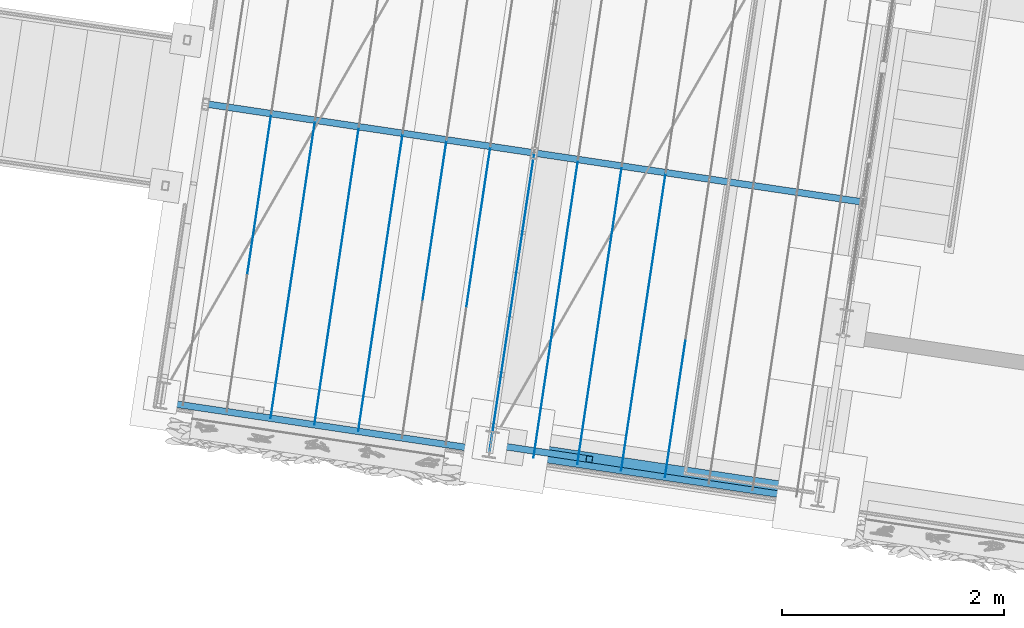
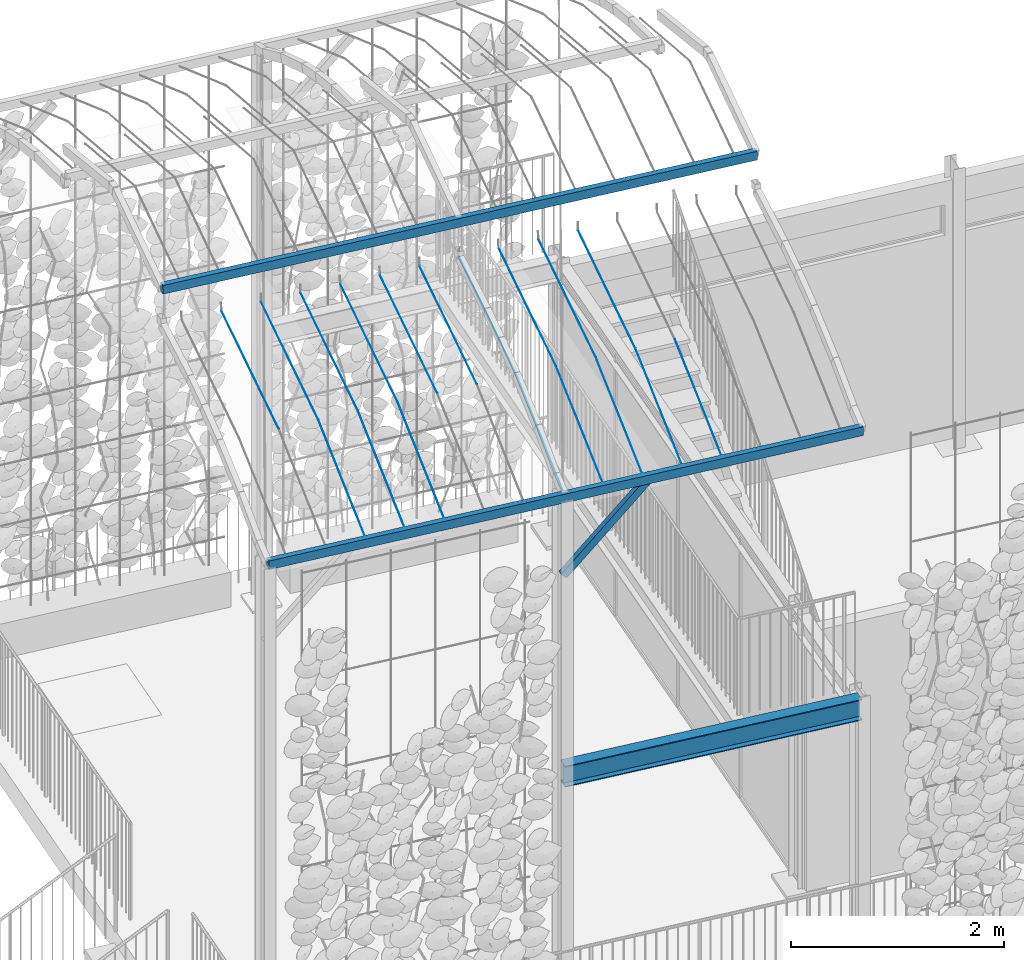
# One storey, part 16 of 142: 19 members, 3 beams, 1 element without a shape of its own.
"""IFC4 building model written with IfcOpenShell, lengths in metres."""

from ifc_helpers import new_model, si_unit, direction, frame, origin_with_axes, place, context, subcontext, project, spatial, hollow_rectangle, circle, i_section, extrude, material, material_profile, profile_set, profile_usage, type_object, element, aggregate, save


model = new_model("IFC4")

# Units and contexts
model_context = context("Model", 3, precision=1e-05, world=origin_with_axes(), true_north=direction((0.0, 1.0)))
body_context = subcontext(model_context, "Body", "Model", "MODEL_VIEW")
ifc_project = project(units=[si_unit("AREAUNIT", "SQUARE_METRE"), si_unit("VOLUMEUNIT", "CUBIC_METRE"), si_unit("LENGTHUNIT", "METRE")], contexts=[model_context])

# Site, building, storey
site_placement = place(None, origin_with_axes())
site = spatial("IfcSite", under=ifc_project, at=site_placement, Name="Lares · Rua das Mercês · artigo 4771")
building_placement = place(site_placement, frame((15.0, 9.7, 14.65), z_axis=(0.0, 0.0, 1.0), x_axis=(0.989015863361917, -0.147809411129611, 0.0)))
building = spatial("IfcBuilding", under=site, at=building_placement, Name="Casa Sobreposta")
storey_placement = place(building_placement, origin_with_axes())
storey = spatial("IfcBuildingStorey", under=building, at=storey_placement, Name="00 · Habitação e estacionamento", Elevation=14.65)

# Assembly, beams, members
assembly_placement = place(storey_placement, origin_with_axes())
assembly = element("IfcElementAssembly", 1, at=assembly_placement, inside=storey, Name="Pérgola · prolongamento da estufa 6 m", ObjectType="PERGOLA_GREENHOUSE_EXTENSION", PredefinedType="USERDEFINED")
ifc_material_1 = material(Name="Aço pintado / Stahl lackiert", Category="steel")
ifc_material_profile_1 = material_profile(ifc_material_1, i_section(OverallWidth=0.12, OverallDepth=0.24, WebThickness=0.0062, FlangeThickness=0.0098))
ifc_profile_set_1 = profile_set([ifc_material_profile_1], Name="IPE240")
ifc_profile_usage_1 = profile_usage(ifc_profile_set_1)
beam_type_1 = type_object("IfcBeamType", Name="IPE240 / steel", PredefinedType="NOTDEFINED", material=ifc_profile_set_1)
beam_1_placement = place(assembly_placement, frame((-3.0, -1.44, 3.02), z_axis=(1.0, 0.0, 0.0), x_axis=(0.0, -1.0, 0.0)))
beam_1 = element("IfcBeam", 2, at=beam_1_placement, type_object=beam_type_1, material=ifc_profile_usage_1, Name="Varanda · viga de bordo", context=body_context, shape_type="SweptSolid", body=[
    extrude(i_section(OverallWidth=0.12, OverallDepth=0.24, WebThickness=0.0062, FlangeThickness=0.0098), origin_with_axes(), (0.0, 0.0, 1.0), 3.0),
])
ifc_material_profile_2 = material_profile(ifc_material_1, hollow_rectangle(XDim=0.06, YDim=0.1, WallThickness=0.004))
ifc_profile_set_2 = profile_set([ifc_material_profile_2], Name="RHS100x60x4")
ifc_profile_usage_2 = profile_usage(ifc_profile_set_2)
beam_type_2 = type_object("IfcBeamType", Name="RHS100x60x4 / steel", PredefinedType="NOTDEFINED", material=ifc_profile_set_2)
beam_2_placement = place(assembly_placement, frame((-6.0, -1.5, 6.23430000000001), z_axis=(1.0, 0.0, 0.0), x_axis=(0.0, -1.0, 0.0)))
beam_2 = element("IfcBeam", 3, at=beam_2_placement, type_object=beam_type_2, material=ifc_profile_usage_2, Name="Pérgola · terça", context=body_context, shape_type="SweptSolid", body=[
    extrude(hollow_rectangle(XDim=0.06, YDim=0.1, WallThickness=0.004), origin_with_axes(), (0.0, 0.0, 1.0), 6.0),
])
ifc_profile_usage_3 = profile_usage(ifc_profile_set_2)
beam_3_placement = place(assembly_placement, frame((-6.0, 1.22042020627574, 7.62067689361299), z_axis=(1.0, 0.0, 0.0), x_axis=(0.0, -1.0, 0.0)))
beam_3 = element("IfcBeam", 4, at=beam_3_placement, type_object=beam_type_2, material=ifc_profile_usage_3, Name="Pérgola · terça", context=body_context, shape_type="SweptSolid", body=[
    extrude(hollow_rectangle(XDim=0.06, YDim=0.1, WallThickness=0.004), origin_with_axes(), (0.0, 0.0, 1.0), 6.0),
])
ifc_material_profile_3 = material_profile(ifc_material_1, hollow_rectangle(XDim=0.06, YDim=0.08, WallThickness=0.004))
ifc_profile_set_3 = profile_set([ifc_material_profile_3], Name="RHS80x60x4")
ifc_profile_usage_4 = profile_usage(ifc_profile_set_3)
member_type_1 = type_object("IfcMemberType", Name="RHS80x60x4 / steel", PredefinedType="NOTDEFINED", material=ifc_profile_set_3)
member_1_placement = place(assembly_placement, frame((-3.0, -1.44, 5.3), z_axis=(0.699294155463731, 0.0, 0.714834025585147), x_axis=(0.0, -1.0, 0.0)))
member_1 = element("IfcMember", 5, at=member_1_placement, type_object=member_type_1, material=ifc_profile_usage_4, Name="Pérgola · escora alta", context=body_context, shape_type="SweptSolid", body=[
    extrude(hollow_rectangle(XDim=0.06, YDim=0.08, WallThickness=0.004), origin_with_axes(), (0.0, 0.0, 1.0), 1.28701204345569),
])
ifc_material_2 = material(Name="Aço galvanizado / Stahl verzinkt", Category="steel")
ifc_material_profile_4 = material_profile(ifc_material_2, circle(Radius=0.002))
ifc_profile_set_4 = profile_set([ifc_material_profile_4], Name="D0.004")
ifc_profile_usage_5 = profile_usage(ifc_profile_set_4)
member_type_2 = type_object("IfcMemberType", Name="D0.004 / galvanized", PredefinedType="NOTDEFINED", material=ifc_profile_set_4)
member_2_placement = place(assembly_placement, frame((-5.4, -0.256488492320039, 6.81570306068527), z_axis=(0.0, 0.96535496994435, 0.260940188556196), x_axis=(1.0, 0.0, 0.0)))
member_2 = element("IfcMember", 6, at=member_2_placement, type_object=member_type_2, material=ifc_profile_usage_5, Name="Pérgola · fio para trepadeiras", context=body_context, shape_type="SweptSolid", body=[
    extrude(circle(Radius=0.002), origin_with_axes(), (0.0, 0.0, 1.0), 1.52368621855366),
])
ifc_profile_usage_6 = profile_usage(ifc_profile_set_4)
member_3_placement = place(assembly_placement, frame((-5.0, -1.5, 6.23430000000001), z_axis=(0.0, 0.905876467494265, 0.423541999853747), x_axis=(1.0, 0.0, 0.0)))
member_3 = element("IfcMember", 7, at=member_3_placement, type_object=member_type_2, material=ifc_profile_usage_6, Name="Pérgola · fio para trepadeiras", context=body_context, shape_type="SweptSolid", body=[
    extrude(circle(Radius=0.002), origin_with_axes(), (0.0, 0.0, 1.0), 1.37271642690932),
])
ifc_profile_usage_7 = profile_usage(ifc_profile_set_4)
member_4_placement = place(assembly_placement, frame((-5.0, -0.256488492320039, 6.81570306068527), z_axis=(0.0, 0.96535496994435, 0.260940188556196), x_axis=(1.0, 0.0, 0.0)))
member_4 = element("IfcMember", 8, at=member_4_placement, type_object=member_type_2, material=ifc_profile_usage_7, Name="Pérgola · fio para trepadeiras", context=body_context, shape_type="SweptSolid", body=[
    extrude(circle(Radius=0.002), origin_with_axes(), (0.0, 0.0, 1.0), 1.52368621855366),
])
ifc_profile_usage_8 = profile_usage(ifc_profile_set_4)
member_5_placement = place(assembly_placement, frame((-4.6, -1.5, 6.23430000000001), z_axis=(0.0, 0.905876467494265, 0.423541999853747), x_axis=(1.0, 0.0, 0.0)))
member_5 = element("IfcMember", 9, at=member_5_placement, type_object=member_type_2, material=ifc_profile_usage_8, Name="Pérgola · fio para trepadeiras", context=body_context, shape_type="SweptSolid", body=[
    extrude(circle(Radius=0.002), origin_with_axes(), (0.0, 0.0, 1.0), 1.37271642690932),
])
ifc_profile_usage_9 = profile_usage(ifc_profile_set_4)
member_6_placement = place(assembly_placement, frame((-4.6, -0.256488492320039, 6.81570306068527), z_axis=(0.0, 0.96535496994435, 0.260940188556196), x_axis=(1.0, 0.0, 0.0)))
member_6 = element("IfcMember", 10, at=member_6_placement, type_object=member_type_2, material=ifc_profile_usage_9, Name="Pérgola · fio para trepadeiras", context=body_context, shape_type="SweptSolid", body=[
    extrude(circle(Radius=0.002), origin_with_axes(), (0.0, 0.0, 1.0), 1.52368621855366),
])
ifc_profile_usage_10 = profile_usage(ifc_profile_set_4)
member_7_placement = place(assembly_placement, frame((-4.2, -1.5, 6.23430000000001), z_axis=(0.0, 0.905876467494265, 0.423541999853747), x_axis=(1.0, 0.0, 0.0)))
member_7 = element("IfcMember", 11, at=member_7_placement, type_object=member_type_2, material=ifc_profile_usage_10, Name="Pérgola · fio para trepadeiras", context=body_context, shape_type="SweptSolid", body=[
    extrude(circle(Radius=0.002), origin_with_axes(), (0.0, 0.0, 1.0), 1.37271642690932),
])
ifc_profile_usage_11 = profile_usage(ifc_profile_set_4)
member_8_placement = place(assembly_placement, frame((-4.2, -0.256488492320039, 6.81570306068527), z_axis=(0.0, 0.96535496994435, 0.260940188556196), x_axis=(1.0, 0.0, 0.0)))
member_8 = element("IfcMember", 12, at=member_8_placement, type_object=member_type_2, material=ifc_profile_usage_11, Name="Pérgola · fio para trepadeiras", context=body_context, shape_type="SweptSolid", body=[
    extrude(circle(Radius=0.002), origin_with_axes(), (0.0, 0.0, 1.0), 1.52368621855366),
])
ifc_profile_usage_12 = profile_usage(ifc_profile_set_4)
member_9_placement = place(assembly_placement, frame((-3.8, -0.256488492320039, 6.81570306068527), z_axis=(0.0, 0.96535496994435, 0.260940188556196), x_axis=(1.0, 0.0, 0.0)))
member_9 = element("IfcMember", 13, at=member_9_placement, type_object=member_type_2, material=ifc_profile_usage_12, Name="Pérgola · fio para trepadeiras", context=body_context, shape_type="SweptSolid", body=[
    extrude(circle(Radius=0.002), origin_with_axes(), (0.0, 0.0, 1.0), 1.52368621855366),
])
ifc_profile_usage_13 = profile_usage(ifc_profile_set_4)
member_10_placement = place(assembly_placement, frame((-3.4, -0.256488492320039, 6.81570306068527), z_axis=(0.0, 0.96535496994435, 0.260940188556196), x_axis=(1.0, 0.0, 0.0)))
member_10 = element("IfcMember", 14, at=member_10_placement, type_object=member_type_2, material=ifc_profile_usage_13, Name="Pérgola · fio para trepadeiras", context=body_context, shape_type="SweptSolid", body=[
    extrude(circle(Radius=0.002), origin_with_axes(), (0.0, 0.0, 1.0), 1.52368621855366),
])
ifc_profile_usage_14 = profile_usage(ifc_profile_set_4)
member_11_placement = place(assembly_placement, frame((-3.0, -1.5, 6.23430000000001), z_axis=(0.0, 0.905876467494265, 0.423541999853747), x_axis=(1.0, 0.0, 0.0)))
member_11 = element("IfcMember", 15, at=member_11_placement, type_object=member_type_2, material=ifc_profile_usage_14, Name="Pérgola · fio para trepadeiras", context=body_context, shape_type="SweptSolid", body=[
    extrude(circle(Radius=0.002), origin_with_axes(), (0.0, 0.0, 1.0), 1.37271642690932),
])
ifc_profile_usage_15 = profile_usage(ifc_profile_set_4)
member_12_placement = place(assembly_placement, frame((-3.0, -0.256488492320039, 6.81570306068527), z_axis=(0.0, 0.96535496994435, 0.260940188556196), x_axis=(1.0, 0.0, 0.0)))
member_12 = element("IfcMember", 16, at=member_12_placement, type_object=member_type_2, material=ifc_profile_usage_15, Name="Pérgola · fio para trepadeiras", context=body_context, shape_type="SweptSolid", body=[
    extrude(circle(Radius=0.002), origin_with_axes(), (0.0, 0.0, 1.0), 1.52368621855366),
])
ifc_profile_usage_16 = profile_usage(ifc_profile_set_4)
member_13_placement = place(assembly_placement, frame((-2.6, -1.5, 6.23430000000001), z_axis=(0.0, 0.905876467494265, 0.423541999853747), x_axis=(1.0, 0.0, 0.0)))
member_13 = element("IfcMember", 17, at=member_13_placement, type_object=member_type_2, material=ifc_profile_usage_16, Name="Pérgola · fio para trepadeiras", context=body_context, shape_type="SweptSolid", body=[
    extrude(circle(Radius=0.002), origin_with_axes(), (0.0, 0.0, 1.0), 1.37271642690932),
])
ifc_profile_usage_17 = profile_usage(ifc_profile_set_4)
member_14_placement = place(assembly_placement, frame((-2.6, -0.256488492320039, 6.81570306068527), z_axis=(0.0, 0.96535496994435, 0.260940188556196), x_axis=(1.0, 0.0, 0.0)))
member_14 = element("IfcMember", 18, at=member_14_placement, type_object=member_type_2, material=ifc_profile_usage_17, Name="Pérgola · fio para trepadeiras", context=body_context, shape_type="SweptSolid", body=[
    extrude(circle(Radius=0.002), origin_with_axes(), (0.0, 0.0, 1.0), 1.52368621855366),
])
ifc_profile_usage_18 = profile_usage(ifc_profile_set_4)
member_15_placement = place(assembly_placement, frame((-2.2, -1.5, 6.23430000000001), z_axis=(0.0, 0.905876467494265, 0.423541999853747), x_axis=(1.0, 0.0, 0.0)))
member_15 = element("IfcMember", 19, at=member_15_placement, type_object=member_type_2, material=ifc_profile_usage_18, Name="Pérgola · fio para trepadeiras", context=body_context, shape_type="SweptSolid", body=[
    extrude(circle(Radius=0.002), origin_with_axes(), (0.0, 0.0, 1.0), 1.37271642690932),
])
ifc_profile_usage_19 = profile_usage(ifc_profile_set_4)
member_16_placement = place(assembly_placement, frame((-2.2, -0.256488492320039, 6.81570306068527), z_axis=(0.0, 0.96535496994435, 0.260940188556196), x_axis=(1.0, 0.0, 0.0)))
member_16 = element("IfcMember", 20, at=member_16_placement, type_object=member_type_2, material=ifc_profile_usage_19, Name="Pérgola · fio para trepadeiras", context=body_context, shape_type="SweptSolid", body=[
    extrude(circle(Radius=0.002), origin_with_axes(), (0.0, 0.0, 1.0), 1.52368621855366),
])
ifc_profile_usage_20 = profile_usage(ifc_profile_set_4)
member_17_placement = place(assembly_placement, frame((-1.8, -1.5, 6.23430000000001), z_axis=(0.0, 0.905876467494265, 0.423541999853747), x_axis=(1.0, 0.0, 0.0)))
member_17 = element("IfcMember", 21, at=member_17_placement, type_object=member_type_2, material=ifc_profile_usage_20, Name="Pérgola · fio para trepadeiras", context=body_context, shape_type="SweptSolid", body=[
    extrude(circle(Radius=0.002), origin_with_axes(), (0.0, 0.0, 1.0), 1.37271642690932),
])
ifc_profile_usage_21 = profile_usage(ifc_profile_set_4)
member_18_placement = place(assembly_placement, frame((-1.8, -0.256488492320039, 6.81570306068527), z_axis=(0.0, 0.96535496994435, 0.260940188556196), x_axis=(1.0, 0.0, 0.0)))
member_18 = element("IfcMember", 22, at=member_18_placement, type_object=member_type_2, material=ifc_profile_usage_21, Name="Pérgola · fio para trepadeiras", context=body_context, shape_type="SweptSolid", body=[
    extrude(circle(Radius=0.002), origin_with_axes(), (0.0, 0.0, 1.0), 1.52368621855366),
])
ifc_profile_usage_22 = profile_usage(ifc_profile_set_4)
member_19_placement = place(assembly_placement, frame((-1.4, -1.5, 6.23430000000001), z_axis=(0.0, 0.905876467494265, 0.423541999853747), x_axis=(1.0, 0.0, 0.0)))
member_19 = element("IfcMember", 23, at=member_19_placement, type_object=member_type_2, material=ifc_profile_usage_22, Name="Pérgola · fio para trepadeiras", context=body_context, shape_type="SweptSolid", body=[
    extrude(circle(Radius=0.002), origin_with_axes(), (0.0, 0.0, 1.0), 1.37271642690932),
])
aggregate(assembly, [beam_2, beam_3, member_1, member_2, member_3, member_4, member_5, member_6, member_7, member_8, member_9, member_10, member_11, member_12, member_13, member_14, member_15, member_16, member_17, member_18, member_19, beam_1])

save(model, "model.ifc")
